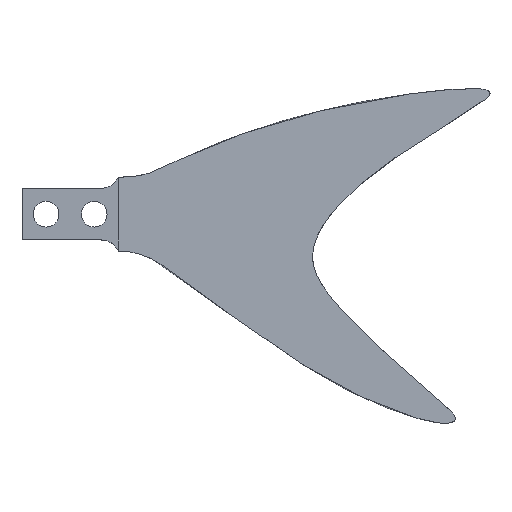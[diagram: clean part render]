
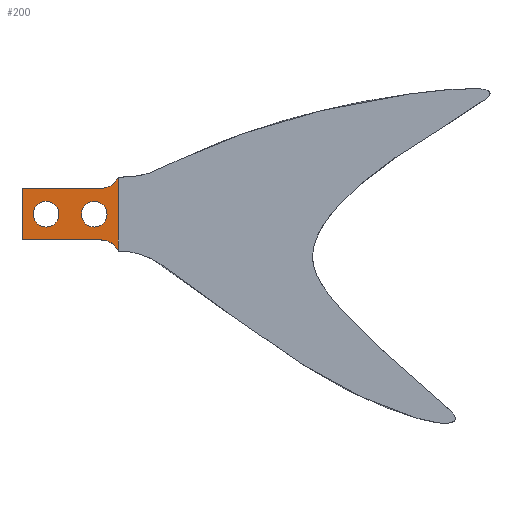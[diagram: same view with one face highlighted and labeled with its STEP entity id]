
A CAD part, top view. The second image highlights one B-rep face of the part: STEP entity #200.
In plain terms, the highlighted planar face has unit normal (0, 0, 1).
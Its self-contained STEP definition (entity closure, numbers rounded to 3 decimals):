
#18=FACE_BOUND('',#47,.T.);
#19=FACE_BOUND('',#48,.T.);
#23=PLANE('',#234);
#34=FACE_OUTER_BOUND('',#46,.T.);
#46=EDGE_LOOP('',(#159,#160,#161,#162,#163,#164));
#47=EDGE_LOOP('',(#165));
#48=EDGE_LOOP('',(#166));
#65=LINE('',#332,#81);
#66=LINE('',#334,#82);
#67=LINE('',#336,#83);
#68=LINE('',#337,#84);
#81=VECTOR('',#276,10.);
#82=VECTOR('',#279,10.);
#83=VECTOR('',#280,10.);
#84=VECTOR('',#281,10.);
#89=CIRCLE('',#222,2.);
#91=CIRCLE('',#225,2.);
#94=CIRCLE('',#229,3.);
#95=CIRCLE('',#231,3.);
#97=VERTEX_POINT('',#298);
#99=VERTEX_POINT('',#304);
#103=VERTEX_POINT('',#313);
#104=VERTEX_POINT('',#315);
#105=VERTEX_POINT('',#319);
#106=VERTEX_POINT('',#320);
#110=VERTEX_POINT('',#330);
#111=VERTEX_POINT('',#335);
#113=EDGE_CURVE('',#97,#97,#89,.T.);
#116=EDGE_CURVE('',#99,#99,#91,.T.);
#121=EDGE_CURVE('',#103,#104,#94,.T.);
#123=EDGE_CURVE('',#105,#106,#95,.F.);
#129=EDGE_CURVE('',#103,#110,#65,.T.);
#130=EDGE_CURVE('',#104,#106,#66,.T.);
#131=EDGE_CURVE('',#111,#110,#67,.T.);
#132=EDGE_CURVE('',#105,#111,#68,.T.);
#159=ORIENTED_EDGE('',*,*,#130,.F.);
#160=ORIENTED_EDGE('',*,*,#121,.F.);
#161=ORIENTED_EDGE('',*,*,#129,.T.);
#162=ORIENTED_EDGE('',*,*,#131,.F.);
#163=ORIENTED_EDGE('',*,*,#132,.F.);
#164=ORIENTED_EDGE('',*,*,#123,.T.);
#165=ORIENTED_EDGE('',*,*,#113,.T.);
#166=ORIENTED_EDGE('',*,*,#116,.T.);
#200=ADVANCED_FACE('',(#34,#18,#19),#23,.T.);
#222=AXIS2_PLACEMENT_3D('',#299,#244,#245);
#225=AXIS2_PLACEMENT_3D('',#305,#251,#252);
#229=AXIS2_PLACEMENT_3D('',#316,#261,#262);
#231=AXIS2_PLACEMENT_3D('',#321,#266,#267);
#234=AXIS2_PLACEMENT_3D('',#333,#277,#278);
#244=DIRECTION('center_axis',(0.,0.,-1.));
#245=DIRECTION('ref_axis',(-1.,0.,0.));
#251=DIRECTION('center_axis',(0.,0.,-1.));
#252=DIRECTION('ref_axis',(-1.,0.,0.));
#261=DIRECTION('center_axis',(0.,0.,1.));
#262=DIRECTION('ref_axis',(0.91,-0.416,0.));
#266=DIRECTION('center_axis',(0.,0.,1.));
#267=DIRECTION('ref_axis',(0.91,0.416,0.));
#276=DIRECTION('',(-1.,0.,0.));
#277=DIRECTION('center_axis',(0.,0.,1.));
#278=DIRECTION('ref_axis',(0.,1.,0.));
#279=DIRECTION('',(0.,-1.,0.));
#280=DIRECTION('',(0.,1.,0.));
#281=DIRECTION('',(-1.,0.,0.));
#298=CARTESIAN_POINT('',(-9.25,-1.867,5.));
#299=CARTESIAN_POINT('Origin',(-11.25,-1.867,5.));
#304=CARTESIAN_POINT('',(-1.75,-1.867,5.));
#305=CARTESIAN_POINT('Origin',(-3.75,-1.867,5.));
#313=CARTESIAN_POINT('',(-2.729,2.133,5.));
#315=CARTESIAN_POINT('',(0.,3.886,5.));
#316=CARTESIAN_POINT('Origin',(-2.729,5.133,5.));
#319=CARTESIAN_POINT('',(-2.729,-5.867,5.));
#320=CARTESIAN_POINT('',(0.,-7.62,5.));
#321=CARTESIAN_POINT('Origin',(-2.729,-8.867,5.));
#330=CARTESIAN_POINT('',(-15.,2.133,5.));
#332=CARTESIAN_POINT('',(0.,2.133,5.));
#333=CARTESIAN_POINT('Origin',(0.,-5.867,5.));
#334=CARTESIAN_POINT('',(0.,3.886,5.));
#335=CARTESIAN_POINT('',(-15.,-5.867,5.));
#336=CARTESIAN_POINT('',(-15.,-5.867,5.));
#337=CARTESIAN_POINT('',(0.,-5.867,5.));
